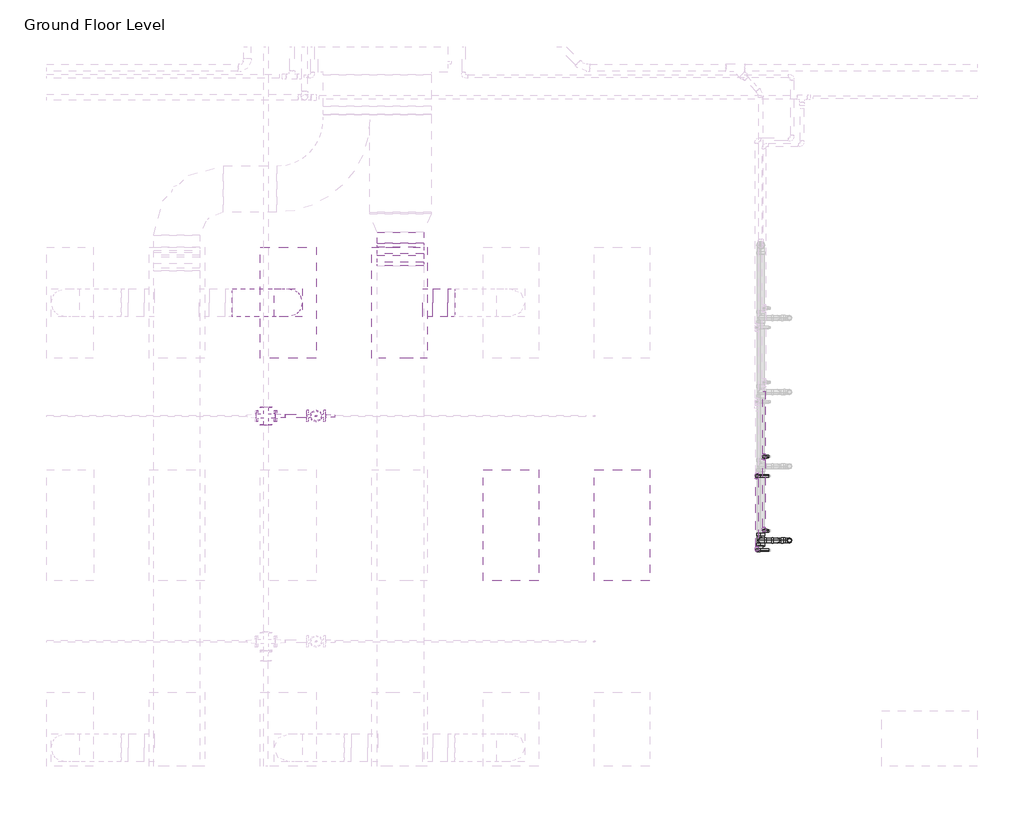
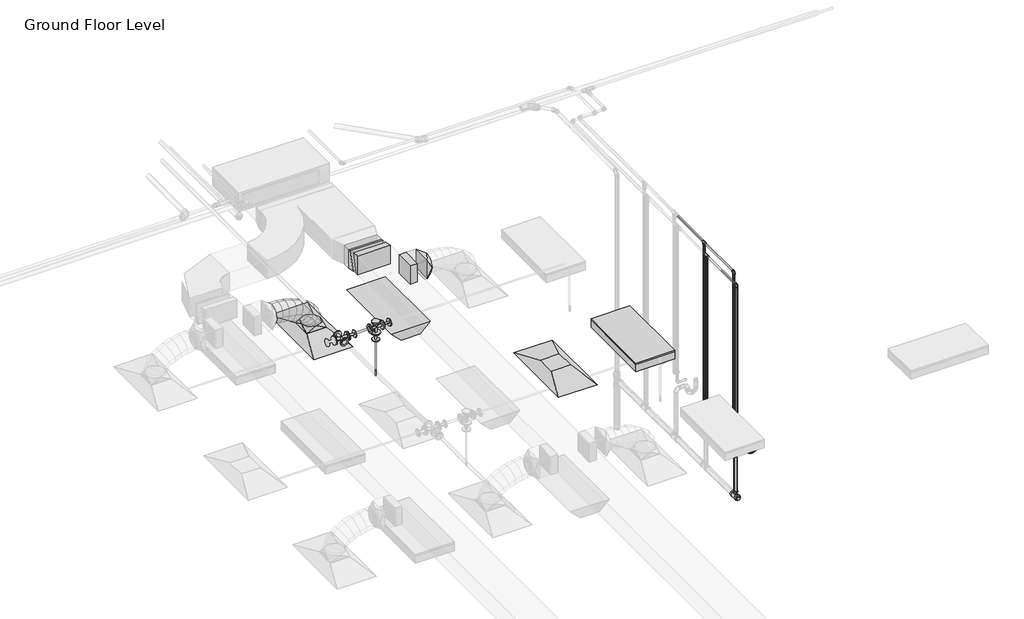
# One storey, part 48 of 66: 19 pipe fittings, 18 pipe segments, 5 duct fittings, 4 duct segments, 2 air terminals, 2 light fixtures, 1 fire suppression terminal.
"""IFC4 building model written with IfcOpenShell, lengths in millimetres."""

from ifc_helpers import new_model, si_unit, point, frame, frame_2d, origin, place, context, project, spatial, polyline, circle_curve, ellipse_curve, trimmed, segment, composite_curve, outline, extrude, transform, mapped, element, save
from ifc_brep_helpers import plane_surface, cylinder_surface, advanced_brep
from components import m_return_diffuser_1200x600_1200_x_600_face_300_x_300_d1983ef6, m_rectangular_elbow_radius_1_w_f78a0081, m_rectangular_takeoff_standard_cb0ccb98, m_rectangular_to_round_transition_angle_45_degree_641efff0, m_sprinkler_dry_pendent_hosted_15_mm_dry_pendent_9bda8e11, m_emergency_recessed_lighting_fixture_600x1200_277_5b10b25d, m_troffer_light_parabolic_rectangular1_0600x1200mm_4_lamp_86473d4a, m_bend_pvc_sch_40_dwv_standard_738aab8b, m_cross_flanged_cs_class_150_standard_fc817054, m_plug_pvc_sch_40_dwv_standard_af737ab4, m_reducer_flanged_cs_class_150_standard_ccf252ad, m_reducer_flanged_cs_class_150_standard_d42b2106, m_reducer_flanged_cs_class_150_standard_8338f9e4, m_tee_reducing_sanitary_pvc_sch_40_dwv_standard_21d2848c, m_tee_round_base_flanged_cs_class_150_standard_7e5987a1, standard_b266ab3f, standard_636910a4

model = new_model("IFC4")

# Units and contexts
model_context = context("Model", 3, world=origin())
ifc_project = project(units=[si_unit("LENGTHUNIT", "METRE", prefix="MILLI")], contexts=[model_context])

# Site, building, storey
site = spatial("IfcSite", under=ifc_project)
building = spatial("IfcBuilding", under=site)
storey = spatial("IfcBuildingStorey", under=building, Name="Ground Floor Level", Elevation=900.0)

# Air terminals
placement = place(None, origin())
m_return_diffuser_1200x600_1200_x_600_face_300_x_300_shape = m_return_diffuser_1200x600_1200_x_600_face_300_x_300_d1983ef6(model_context)
element("IfcAirTerminal", 1, ObjectType="M_Return Diffuser 1200x600 : 1200 x 600 Face 300 x 300 Connection", at=placement, inside=storey, context=model_context, shape_type="MappedRepresentation", body=[
    mapped(m_return_diffuser_1200x600_1200_x_600_face_300_x_300_shape, transform((-3337.2327605, 8835.2153534, 3650.0), x_axis=(0.0, 1.0, 0.0), y_axis=(-1.0, 0.0, 0.0), z_axis=(0.0, 0.0, 1.0))),
])
element("IfcAirTerminal", 2, ObjectType="M_Supply Diffuser 1200x600 : 1200 x 600 Face 300 x 300 Connection", at=placement, inside=storey, context=model_context, shape_type="MappedRepresentation", body=[
    mapped(m_return_diffuser_1200x600_1200_x_600_face_300_x_300_shape, transform((-5737.2327605, 11235.2153534, 3650.0), x_axis=(0.0, 1.0, 0.0), y_axis=(-1.0, 0.0, 0.0), z_axis=(0.0, 0.0, 1.0))),
])

# Duct fittings
m_rectangular_elbow_radius_1_w_shape = m_rectangular_elbow_radius_1_w_f78a0081(model_context)
element("IfcDuctFitting", 3, ObjectType="M_Rectangular Elbow - Radius : 1 W", at=placement, inside=storey, context=model_context, shape_type="MappedRepresentation", body=[
    mapped(m_rectangular_elbow_radius_1_w_shape, transform((-4528.6910789, 11671.1593756, 4149.9980527), x_axis=(0.0, 0.999999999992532, -3.864729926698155e-06), y_axis=(0.0, -3.864729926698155e-06, -0.999999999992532), z_axis=(-1.0, 0.0, 0.0))),
])
element("IfcDuctFitting", 4, ObjectType="M_Rectangular Elbow - Radius : 1 W", at=placement, inside=storey, context=model_context, shape_type="MappedRepresentation", body=[
    mapped(m_rectangular_elbow_radius_1_w_shape, transform((-4528.6910789, 11835.9032855, 4107.134916), x_axis=(0.0, -0.999999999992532, 3.864729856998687e-06), y_axis=(0.0, 3.864729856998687e-06, 0.999999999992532), z_axis=(-1.0, 0.0, 0.0))),
])
m_rectangular_takeoff_standard_shape = m_rectangular_takeoff_standard_cb0ccb98(model_context)
element("IfcDuctFitting", 5, ObjectType="M_Rectangular Takeoff : Standard", at=placement, inside=storey, context=model_context, shape_type="MappedRepresentation", body=[
    mapped(m_rectangular_takeoff_standard_shape, transform((-4278.6910789, 11235.2153534, 4150.0), x_axis=(1.0, 0.0, 0.0), y_axis=(0.0, -1.0, 0.0), z_axis=(0.0, 0.0, -1.0))),
])
m_rectangular_to_round_transition_angle_45_degree_shape = m_rectangular_to_round_transition_angle_45_degree_641efff0(model_context)
element("IfcDuctFitting", 6, ObjectType="M_Rectangular to Round Transition - Angle : 45 Degree", at=placement, inside=storey, context=model_context, shape_type="MappedRepresentation", body=[
    mapped(m_rectangular_to_round_transition_angle_45_degree_shape, transform((-5737.2327605, 11235.2153534, 3751.6), x_axis=(0.0, 0.0, 1.0), y_axis=(-1.0, 0.0, 0.0), z_axis=(0.0, -1.0, 0.0))),
])
element("IfcDuctFitting", 7, ObjectType="M_Rectangular to Round Transition - Angle : 45 Degree", at=placement, inside=storey, context=model_context, shape_type="MappedRepresentation", body=[
    mapped(m_rectangular_to_round_transition_angle_45_degree_shape, transform((-4018.6725245, 11235.2153534, 4150.0), x_axis=(1.0, 0.0, 0.0), y_axis=(0.0, 1.0, 0.0), z_axis=(0.0, 0.0, 1.0))),
])

# Duct segments
element("IfcDuctSegment", 8, ObjectType="Flex - Round", at=placement, inside=storey, context=model_context, shape_type="AdvancedBrep", body=[
    advanced_brep(
    [(-5587.2327605, 11235.2153534, 3826.6), (-5737.2327605, 11085.2153534, 3826.6), (-5887.2327605, 11235.2153534, 3826.6), (-5737.2327605, 11385.2153534, 3826.6), (-5587.2327605, 11235.2153534, 3882.1261126), (-5737.2327605, 11085.2153534, 3857.3049615), (-5887.2327605, 11235.2153534, 3832.4838104), (-5737.2327605, 11385.2153534, 3857.3049615), (-5618.4260847, 11235.2153534, 3973.7995287), (-5753.8941651, 11085.2153534, 3906.2708192), (-5889.3622454, 11235.2153534, 3838.7421096), (-5753.8941651, 11385.2153534, 3906.2708192), (-5688.1600922, 11235.2153534, 4076.4123668), (-5799.7721827, 11085.2153534, 3973.7798261), (-5911.3842733, 11235.2153534, 3871.1472855), (-5799.7721827, 11385.2153534, 3973.7798261), (-5786.0880408, 11235.2153534, 4155.7111802), (-5868.7075193, 11085.2153534, 4029.6013814), (-5951.3269979, 11235.2153534, 3903.4915826), (-5868.7075193, 11385.2153534, 4029.6013814), (-5894.832581, 11235.2153534, 4212.226815), (-5954.5408807, 11085.2153534, 4074.2098454), (-6014.2491805, 11235.2153534, 3936.1928758), (-5954.5408807, 11385.2153534, 4074.2098454), (-6009.1243732, 11235.2153534, 4252.311196), (-6051.1129728, 11085.2153534, 4108.0795788), (-6093.1015724, 11235.2153534, 3963.8479616), (-6051.1129728, 11385.2153534, 4108.0795788), (-6124.8554478, 11235.2153534, 4279.3189347), (-6152.2645014, 11085.2153534, 4131.684942), (-6179.6735551, 11235.2153534, 3984.0509494), (-6152.2645014, 11385.2153534, 4131.684942), (-6237.5146065, 11235.2153534, 4294.9501488), (-6251.8361725, 11085.2153534, 4145.5002956), (-6266.1577385, 11235.2153534, 3996.0504424), (-6251.8361725, 11385.2153534, 4145.5002956), (-6332.3362491, 11235.2153534, 4300.0), (-6336.3276445, 11085.2153534, 4150.0), (-6340.31904, 11235.2153534, 4000.0), (-6336.3276445, 11385.2153534, 4150.0), (-6343.6686918, 11235.2153534, 4300.0), (-6343.6686918, 11385.2153534, 4150.0), (-6343.6686918, 11235.2153534, 4000.0), (-6343.6686918, 11085.2153534, 4150.0)],
    [
        (0, 1, circle_curve(frame((-5737.2327605, 11235.2153534, 3826.6), z_axis=(0.0, 0.0, -1.0), x_axis=(1.0, 0.0, 0.0)), 150.0)),
        (1, 2, circle_curve(frame((-5737.2327605, 11235.2153534, 3826.6), z_axis=(0.0, 0.0, -1.0), x_axis=(1.0, 0.0, 0.0)), 150.0)),
        (2, 3, circle_curve(frame((-5737.2327605, 11235.2153534, 3826.6), z_axis=(0.0, 0.0, -1.0), x_axis=(1.0, 0.0, 0.0)), 150.0)),
        (3, 0, circle_curve(frame((-5737.2327605, 11235.2153534, 3826.6), z_axis=(0.0, 0.0, -1.0), x_axis=(1.0, 0.0, 0.0)), 150.0)),
        (0, 4),
        (4, 5, ellipse_curve(frame((-5737.2327605, 11235.2153534, 3857.3049615), z_axis=(0.1632543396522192, 0.0, -0.9865840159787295), x_axis=(-0.9865840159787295, 0.0, -0.16325433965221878)), 152.039763, 150.0)),
        (5, 1),
        (5, 6, ellipse_curve(frame((-5737.2327605, 11235.2153534, 3857.3049615), z_axis=(0.1632543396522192, 0.0, -0.9865840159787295), x_axis=(-0.9865840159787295, 0.0, -0.16325433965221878)), 152.039763, 150.0)),
        (6, 2),
        (6, 7, ellipse_curve(frame((-5737.2327605, 11235.2153534, 3857.3049615), z_axis=(0.1632543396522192, 0.0, -0.9865840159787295), x_axis=(-0.9865840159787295, 0.0, -0.16325433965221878)), 152.039763, 150.0)),
        (7, 3),
        (7, 4, ellipse_curve(frame((-5737.2327605, 11235.2153534, 3857.3049615), z_axis=(0.1632543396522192, 0.0, -0.9865840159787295), x_axis=(-0.9865840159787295, 0.0, -0.16325433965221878)), 152.039763, 150.0)),
        (4, 8),
        (8, 9, ellipse_curve(frame((-5753.8941651, 11235.2153534, 3906.2708192), z_axis=(0.44612805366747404, 0.0, -0.8949691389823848), x_axis=(-0.8949691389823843, 0.0, -0.44612805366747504)), 151.366203, 150.0)),
        (9, 5),
        (9, 10, ellipse_curve(frame((-5753.8941651, 11235.2153534, 3906.2708192), z_axis=(0.44612805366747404, 0.0, -0.8949691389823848), x_axis=(-0.8949691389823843, 0.0, -0.44612805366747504)), 151.366203, 150.0)),
        (10, 6),
        (10, 11, ellipse_curve(frame((-5753.8941651, 11235.2153534, 3906.2708192), z_axis=(0.44612805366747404, 0.0, -0.8949691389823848), x_axis=(-0.8949691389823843, 0.0, -0.44612805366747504)), 151.366203, 150.0)),
        (11, 7),
        (11, 8, ellipse_curve(frame((-5753.8941651, 11235.2153534, 3906.2708192), z_axis=(0.44612805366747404, 0.0, -0.8949691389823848), x_axis=(-0.8949691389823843, 0.0, -0.44612805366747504)), 151.366203, 150.0)),
        (8, 12),
        (12, 13, ellipse_curve(frame((-5799.7721827, 11235.2153534, 3973.7798261), z_axis=(0.6768758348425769, 0.0, -0.7360972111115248), x_axis=(-0.7360972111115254, 0.0, -0.6768758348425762)), 151.6268352, 150.0)),
        (13, 9),
        (13, 14, ellipse_curve(frame((-5799.7721827, 11235.2153534, 3973.7798261), z_axis=(0.6768758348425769, 0.0, -0.7360972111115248), x_axis=(-0.7360972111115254, 0.0, -0.6768758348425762)), 151.6268352, 150.0)),
        (14, 10),
        (14, 15, ellipse_curve(frame((-5799.7721827, 11235.2153534, 3973.7798261), z_axis=(0.6768758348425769, 0.0, -0.7360972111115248), x_axis=(-0.7360972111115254, 0.0, -0.6768758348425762)), 151.6268352, 150.0)),
        (15, 11),
        (15, 12, ellipse_curve(frame((-5799.7721827, 11235.2153534, 3973.7798261), z_axis=(0.6768758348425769, 0.0, -0.7360972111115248), x_axis=(-0.7360972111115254, 0.0, -0.6768758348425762)), 151.6268352, 150.0)),
        (12, 16),
        (16, 17, ellipse_curve(frame((-5868.7075193, 11235.2153534, 4029.6013814), z_axis=(0.8364738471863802, 0.0, -0.5480068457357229), x_axis=(-0.5480068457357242, 0.0, -0.8364738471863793)), 150.7635884, 150.0)),
        (17, 13),
        (17, 18, ellipse_curve(frame((-5868.7075193, 11235.2153534, 4029.6013814), z_axis=(0.8364738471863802, 0.0, -0.5480068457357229), x_axis=(-0.5480068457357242, 0.0, -0.8364738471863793)), 150.7635884, 150.0)),
        (18, 14),
        (18, 19, ellipse_curve(frame((-5868.7075193, 11235.2153534, 4029.6013814), z_axis=(0.8364738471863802, 0.0, -0.5480068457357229), x_axis=(-0.5480068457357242, 0.0, -0.8364738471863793)), 150.7635884, 150.0)),
        (19, 15),
        (19, 16, ellipse_curve(frame((-5868.7075193, 11235.2153534, 4029.6013814), z_axis=(0.8364738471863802, 0.0, -0.5480068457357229), x_axis=(-0.5480068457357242, 0.0, -0.8364738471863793)), 150.7635884, 150.0)),
        (16, 20),
        (20, 21, ellipse_curve(frame((-5954.5408807, 11235.2153534, 4074.2098454), z_axis=(0.9177957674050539, 0.0, -0.39705280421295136), x_axis=(-0.39705280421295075, 0.0, -0.9177957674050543)), 150.3787384, 150.0)),
        (21, 17),
        (21, 22, ellipse_curve(frame((-5954.5408807, 11235.2153534, 4074.2098454), z_axis=(0.9177957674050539, 0.0, -0.39705280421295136), x_axis=(-0.39705280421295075, 0.0, -0.9177957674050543)), 150.3787384, 150.0)),
        (22, 18),
        (22, 23, ellipse_curve(frame((-5954.5408807, 11235.2153534, 4074.2098454), z_axis=(0.9177957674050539, 0.0, -0.39705280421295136), x_axis=(-0.39705280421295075, 0.0, -0.9177957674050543)), 150.3787384, 150.0)),
        (23, 19),
        (23, 20, ellipse_curve(frame((-5954.5408807, 11235.2153534, 4074.2098454), z_axis=(0.9177957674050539, 0.0, -0.39705280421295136), x_axis=(-0.39705280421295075, 0.0, -0.9177957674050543)), 150.3787384, 150.0)),
        (20, 24),
        (24, 25, ellipse_curve(frame((-6051.1129728, 11235.2153534, 4108.0795788), z_axis=(0.9601411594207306, 0.0, -0.2795155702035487), x_axis=(-0.27951557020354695, 0.0, -0.9601411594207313)), 150.2191795, 150.0)),
        (25, 21),
        (25, 26, ellipse_curve(frame((-6051.1129728, 11235.2153534, 4108.0795788), z_axis=(0.9601411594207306, 0.0, -0.2795155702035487), x_axis=(-0.27951557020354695, 0.0, -0.9601411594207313)), 150.2191795, 150.0)),
        (26, 22),
        (26, 27, ellipse_curve(frame((-6051.1129728, 11235.2153534, 4108.0795788), z_axis=(0.9601411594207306, 0.0, -0.2795155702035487), x_axis=(-0.27951557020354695, 0.0, -0.9601411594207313)), 150.2191795, 150.0)),
        (27, 23),
        (27, 24, ellipse_curve(frame((-6051.1129728, 11235.2153534, 4108.0795788), z_axis=(0.9601411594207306, 0.0, -0.2795155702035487), x_axis=(-0.27951557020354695, 0.0, -0.9601411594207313)), 150.2191795, 150.0)),
        (24, 28),
        (28, 29, ellipse_curve(frame((-6152.2645014, 11235.2153534, 4131.684942), z_axis=(0.9831991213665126, 0.0, -0.1825362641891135), x_axis=(-0.1825362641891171, 0.0, -0.9831991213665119)), 150.1567581, 150.0)),
        (29, 25),
        (29, 30, ellipse_curve(frame((-6152.2645014, 11235.2153534, 4131.684942), z_axis=(0.9831991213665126, 0.0, -0.1825362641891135), x_axis=(-0.1825362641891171, 0.0, -0.9831991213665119)), 150.1567581, 150.0)),
        (30, 26),
        (30, 31, ellipse_curve(frame((-6152.2645014, 11235.2153534, 4131.684942), z_axis=(0.9831991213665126, 0.0, -0.1825362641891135), x_axis=(-0.1825362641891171, 0.0, -0.9831991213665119)), 150.1567581, 150.0)),
        (31, 27),
        (31, 28, ellipse_curve(frame((-6152.2645014, 11235.2153534, 4131.684942), z_axis=(0.9831991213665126, 0.0, -0.1825362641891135), x_axis=(-0.1825362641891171, 0.0, -0.9831991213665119)), 150.1567581, 150.0)),
        (28, 32),
        (32, 33, ellipse_curve(frame((-6251.8361725, 11235.2153534, 4145.5002956), z_axis=(0.9954398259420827, 0.0, -0.09539157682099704), x_axis=(-0.09539157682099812, 0.0, -0.9954398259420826)), 150.1344926, 150.0)),
        (33, 29),
        (33, 34, ellipse_curve(frame((-6251.8361725, 11235.2153534, 4145.5002956), z_axis=(0.9954398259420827, 0.0, -0.09539157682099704), x_axis=(-0.09539157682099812, 0.0, -0.9954398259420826)), 150.1344926, 150.0)),
        (34, 30),
        (34, 35, ellipse_curve(frame((-6251.8361725, 11235.2153534, 4145.5002956), z_axis=(0.9954398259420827, 0.0, -0.09539157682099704), x_axis=(-0.09539157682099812, 0.0, -0.9954398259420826)), 150.1344926, 150.0)),
        (35, 31),
        (35, 32, ellipse_curve(frame((-6251.8361725, 11235.2153534, 4145.5002956), z_axis=(0.9954398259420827, 0.0, -0.09539157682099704), x_axis=(-0.09539157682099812, 0.0, -0.9954398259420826)), 150.1344926, 150.0)),
        (32, 36),
        (36, 37, ellipse_curve(frame((-6336.3276445, 11235.2153534, 4150.0), z_axis=(0.9996461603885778, 0.0, -0.026599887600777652), x_axis=(-0.026599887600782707, 0.0, -0.9996461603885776)), 150.0530947, 150.0)),
        (37, 33),
        (37, 38, ellipse_curve(frame((-6336.3276445, 11235.2153534, 4150.0), z_axis=(0.9996461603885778, 0.0, -0.026599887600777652), x_axis=(-0.026599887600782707, 0.0, -0.9996461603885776)), 150.0530947, 150.0)),
        (38, 34),
        (38, 39, ellipse_curve(frame((-6336.3276445, 11235.2153534, 4150.0), z_axis=(0.9996461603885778, 0.0, -0.026599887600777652), x_axis=(-0.026599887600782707, 0.0, -0.9996461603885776)), 150.0530947, 150.0)),
        (39, 35),
        (39, 36, ellipse_curve(frame((-6336.3276445, 11235.2153534, 4150.0), z_axis=(0.9996461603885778, 0.0, -0.026599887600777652), x_axis=(-0.026599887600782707, 0.0, -0.9996461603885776)), 150.0530947, 150.0)),
        (40, 41, circle_curve(frame((-6343.6686918, 11235.2153534, 4150.0), z_axis=(-1.0, 0.0, 0.0), x_axis=(0.0, 0.0, 1.0)), 150.0)),
        (41, 42, circle_curve(frame((-6343.6686918, 11235.2153534, 4150.0), z_axis=(-1.0, 0.0, 0.0), x_axis=(0.0, 0.0, 1.0)), 150.0)),
        (42, 43, circle_curve(frame((-6343.6686918, 11235.2153534, 4150.0), z_axis=(-1.0, 0.0, 0.0), x_axis=(0.0, 0.0, 1.0)), 150.0)),
        (43, 40, circle_curve(frame((-6343.6686918, 11235.2153534, 4150.0), z_axis=(-1.0, 0.0, 0.0), x_axis=(0.0, 0.0, 1.0)), 150.0)),
        (36, 40),
        (43, 37),
        (42, 38),
        (41, 39),
    ],
    [
        plane_surface(frame((-5737.2327605, 11085.2153534, 3826.6), z_axis=(0.0, 0.0, -1.0), x_axis=(1.0, 0.0, 0.0))),
        cylinder_surface(frame((-5737.2327605, 11235.2153534, 3826.6), z_axis=(0.0, 0.0, -1.0), x_axis=(1.0, 0.0, 0.0)), 150.0),
        cylinder_surface(frame((-5737.2327605, 11235.2153534, 3857.3049615), z_axis=(0.32212824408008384, 0.0, -0.9466960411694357), x_axis=(0.9466960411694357, 0.0, 0.32212824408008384)), 150.0),
        cylinder_surface(frame((-5753.8941651, 11235.2153534, 3906.2708192), z_axis=(0.5620745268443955, 0.0, -0.8270865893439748), x_axis=(0.8270865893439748, 0.0, 0.5620745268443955)), 150.0),
        cylinder_surface(frame((-5799.7721827, 11235.2153534, 3973.7798261), z_axis=(0.777152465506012, 0.0, -0.6293123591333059), x_axis=(0.6293123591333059, 0.0, 0.777152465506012)), 150.0),
        cylinder_surface(frame((-5868.7075193, 11235.2153534, 4029.6013814), z_axis=(0.887322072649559, 0.0, -0.4611502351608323), x_axis=(0.4611502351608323, 0.0, 0.887322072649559)), 150.0),
        cylinder_surface(frame((-5954.5408807, 11235.2153534, 4074.2098454), z_axis=(0.9436464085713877, 0.0, -0.3309553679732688), x_axis=(0.3309553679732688, 0.0, 0.9436464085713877)), 150.0),
        cylinder_surface(frame((-6051.1129728, 11235.2153534, 4108.0795788), z_axis=(0.9738340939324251, 0.0, -0.22726010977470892), x_axis=(0.22726010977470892, 0.0, 0.9738340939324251)), 150.0),
        cylinder_surface(frame((-6152.2645014, 11235.2153534, 4131.684942), z_axis=(0.9905113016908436, 0.0, -0.137431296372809), x_axis=(0.137431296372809, 0.0, 0.9905113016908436)), 150.0),
        cylinder_surface(frame((-6251.8361725, 11235.2153534, 4145.5002956), z_axis=(0.998584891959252, 0.0, -0.05318095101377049), x_axis=(0.05318095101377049, 0.0, 0.998584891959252)), 150.0),
        plane_surface(frame((-6343.6686918, 11235.2153534, 4000.0), z_axis=(-1.0, 0.0, 0.0), x_axis=(0.0, -1.0, 0.0))),
        cylinder_surface(frame((-6336.3276445, 11235.2153534, 4150.0), z_axis=(1.0, 0.0, 0.0), x_axis=(0.0, 0.0, 1.0)), 150.0),
    ],
    [
        (0, [[1, 2, 3, 4]]),
        (1, [[-1, 5, 6, 7]]),
        (1, [[-2, -7, 8, 9]]),
        (1, [[-3, -9, 10, 11]]),
        (1, [[-4, -11, 12, -5]]),
        (2, [[-6, 13, 14, 15]]),
        (2, [[-8, -15, 16, 17]]),
        (2, [[-10, -17, 18, 19]]),
        (2, [[-12, -19, 20, -13]]),
        (3, [[-14, 21, 22, 23]]),
        (3, [[-16, -23, 24, 25]]),
        (3, [[-18, -25, 26, 27]]),
        (3, [[-20, -27, 28, -21]]),
        (4, [[-22, 29, 30, 31]]),
        (4, [[-24, -31, 32, 33]]),
        (4, [[-26, -33, 34, 35]]),
        (4, [[-28, -35, 36, -29]]),
        (5, [[-30, 37, 38, 39]]),
        (5, [[-32, -39, 40, 41]]),
        (5, [[-34, -41, 42, 43]]),
        (5, [[-36, -43, 44, -37]]),
        (6, [[-38, 45, 46, 47]]),
        (6, [[-40, -47, 48, 49]]),
        (6, [[-42, -49, 50, 51]]),
        (6, [[-44, -51, 52, -45]]),
        (7, [[-46, 53, 54, 55]]),
        (7, [[-48, -55, 56, 57]]),
        (7, [[-50, -57, 58, 59]]),
        (7, [[-52, -59, 60, -53]]),
        (8, [[-54, 61, 62, 63]]),
        (8, [[-56, -63, 64, 65]]),
        (8, [[-58, -65, 66, 67]]),
        (8, [[-60, -67, 68, -61]]),
        (9, [[-62, 69, 70, 71]]),
        (9, [[-64, -71, 72, 73]]),
        (9, [[-66, -73, 74, 75]]),
        (9, [[-68, -75, 76, -69]]),
        (10, [[77, 78, 79, 80]]),
        (11, [[-70, 81, -80, 82]]),
        (11, [[-72, -82, -79, 83]]),
        (11, [[-74, -83, -78, 84]]),
        (11, [[-76, -84, -77, -81]]),
    ],
),
])
element("IfcDuctSegment", 9, ObjectType="Radius Elbows / Taps", at=placement, inside=storey, context=model_context, shape_type="SweptSolid", body=[
    extrude(outline(polyline([(-4177.0910789, 11085.2153534), (-4177.0910789, 11385.2153534), (-4018.6725245, 11385.2153534), (-4018.6725245, 11085.2153534), (-4177.0910789, 11085.2153534)])), frame((0.0, 0.0, 4000.0), z_axis=(0.0, 0.0, 1.0), x_axis=(1.0, 0.0, 0.0)), (0.0, 0.0, 1.0), 300.0),
])
element("IfcDuctSegment", 10, ObjectType="Radius Elbows / Taps", at=placement, inside=storey, context=model_context, shape_type="SweptSolid", body=[
    extrude(outline(polyline([(-4778.6910789, 11996.8633064), (-4278.6910789, 11996.8633064), (-4278.6910789, 11874.2907355), (-4778.6910789, 11874.2907355), (-4778.6910789, 11996.8633064)])), frame((0.0, 0.0, 3957.1342939), z_axis=(0.0, 0.0, 1.0), x_axis=(1.0, 0.0, 0.0)), (0.0, 0.0, 1.0), 300.0),
])
element("IfcDuctSegment", 11, ObjectType="Radius Elbows / Taps", at=placement, inside=storey, context=model_context, shape_type="SweptSolid", body=[
    extrude(outline(polyline([(0.0, -500.0), (0.0, 0.0), (93.4537824, 0.0), (93.4537824, -500.0), (0.0, -500.0)])), frame((-4778.6910789, 11670.5403736, 3995.1651971), z_axis=(0.0, 0.25179738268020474, 0.9677799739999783), x_axis=(0.0, 0.9677799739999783, -0.25179738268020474)), (0.0, 0.0, 1.0), 300.0),
])

# Fire suppression terminal
m_sprinkler_dry_pendent_hosted_15_mm_dry_pendent_shape = m_sprinkler_dry_pendent_hosted_15_mm_dry_pendent_9bda8e11(model_context)
element("IfcFireSuppressionTerminal", 12, ObjectType="M_Sprinkler - Dry - Pendent - Hosted : 15 mm Dry Pendent", at=placement, inside=storey, context=model_context, shape_type="MappedRepresentation", body=[
    mapped(m_sprinkler_dry_pendent_hosted_15_mm_dry_pendent_shape, transform((-5437.2327605, 10013.008259, 3650.0), x_axis=(1.0, 0.0, 0.0), y_axis=(0.0, -1.0, 0.0), z_axis=(0.0, 0.0, -1.0))),
])

# Light fixtures
m_emergency_recessed_lighting_fixture_600x1200_277_shape = m_emergency_recessed_lighting_fixture_600x1200_277_5b10b25d(model_context)
element("IfcLightFixture", 13, ObjectType="M_Emergency Recessed Lighting Fixture : 600x1200 - 277", at=placement, inside=storey, context=model_context, shape_type="MappedRepresentation", body=[
    mapped(m_emergency_recessed_lighting_fixture_600x1200_277_shape, transform((-4837.2327605, 10635.2153534, 3650.0), x_axis=(0.0, 1.0, 0.0), y_axis=(-1.0, 0.0, 0.0), z_axis=(0.0, 0.0, 1.0))),
])
m_troffer_light_parabolic_rectangular1_0600x1200mm_4_lamp_shape = m_troffer_light_parabolic_rectangular1_0600x1200mm_4_lamp_86473d4a(model_context)
element("IfcLightFixture", 14, ObjectType="M_Troffer Light - Parabolic Rectangular1 : 0600x1200mm(4 Lamp) - 277V 2", at=placement, inside=storey, context=model_context, shape_type="MappedRepresentation", body=[
    mapped(m_troffer_light_parabolic_rectangular1_0600x1200mm_4_lamp_shape, transform((-2196.6986926, 8853.918855, 3650.0), x_axis=(0.0, 1.0, 0.0), y_axis=(-1.0, 0.0, 0.0), z_axis=(0.0, 0.0, 1.0))),
])

# Pipe fittings
m_bend_pvc_sch_40_dwv_standard_shape = m_bend_pvc_sch_40_dwv_standard_738aab8b(model_context)
element("IfcPipeFitting", 15, ObjectType="M_Bend - PVC - Sch 40 - DWV : Standard", at=placement, inside=storey, context=model_context, shape_type="MappedRepresentation", body=[
    mapped(m_bend_pvc_sch_40_dwv_standard_shape, transform((-463.6645494, 8671.1979139, 1370.0), x_axis=(-1.0, 0.0, 0.0), y_axis=(0.0, 0.0, 1.0), z_axis=(0.0, 1.0, 0.0))),
])
element("IfcPipeFitting", 16, ObjectType="M_Bend - PVC - Sch 40 - DWV : Standard", at=placement, inside=storey, context=model_context, shape_type="MappedRepresentation", body=[
    mapped(m_bend_pvc_sch_40_dwv_standard_shape, transform((-463.6645494, 8671.1979139, 1510.0), x_axis=(0.0, 0.0, 1.0), y_axis=(-1.0, 0.0, 0.0), z_axis=(0.0, -1.0, 0.0))),
])
element("IfcPipeFitting", 17, ObjectType="M_Bend - PVC - Sch 40 - DWV : Standard", at=placement, inside=storey, context=model_context, shape_type="MappedRepresentation", body=[
    mapped(m_bend_pvc_sch_40_dwv_standard_shape, transform((-333.6645494, 8671.1979139, 1370.0), x_axis=(1.0, 0.0, 0.0), y_axis=(0.0, 0.0, 1.0), z_axis=(0.0, -1.0, 0.0))),
])
element("IfcPipeFitting", 18, ObjectType="M_Bend - PVC - Sch 40 - DWV : Standard", at=placement, inside=storey, context=model_context, shape_type="MappedRepresentation", body=[
    mapped(m_bend_pvc_sch_40_dwv_standard_shape, transform((-642.2301761, 8671.1979139, 1510.0), x_axis=(-1.0, 0.0, 0.0), y_axis=(0.0, 0.0, -1.0), z_axis=(0.0, -1.0, 0.0))),
])
m_cross_flanged_cs_class_150_standard_shape = m_cross_flanged_cs_class_150_standard_fc817054(model_context)
element("IfcPipeFitting", 19, ObjectType="M_Cross - Flanged - CS - Class 150 : Standard", at=placement, inside=storey, context=model_context, shape_type="MappedRepresentation", body=[
    mapped(m_cross_flanged_cs_class_150_standard_shape, transform((-5978.130502, 10013.008259, 4360.0), x_axis=(0.0, 1.0, 0.0), y_axis=(1.0, 0.0, 0.0), z_axis=(0.0, 0.0, -1.0))),
])
m_plug_pvc_sch_40_dwv_standard_shape = m_plug_pvc_sch_40_dwv_standard_af737ab4(model_context)
element("IfcPipeFitting", 20, ObjectType="M_Plug - PVC - Sch 40 - DWV : Standard", at=placement, inside=storey, context=model_context, shape_type="MappedRepresentation", body=[
    mapped(m_plug_pvc_sch_40_dwv_standard_shape, transform((-642.2301761, 8611.7151447, 727.6937137), x_axis=(0.0, -0.9999500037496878, 0.009999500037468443), y_axis=(0.0, -0.009999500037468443, -0.9999500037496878), z_axis=(1.0, 0.0, 0.0))),
])
m_reducer_flanged_cs_class_150_standard_shape = m_reducer_flanged_cs_class_150_standard_ccf252ad(model_context)
element("IfcPipeFitting", 21, ObjectType="M_Reducer - Flanged - CS - Class 150 : Standard", at=placement, inside=storey, context=model_context, shape_type="MappedRepresentation", body=[
    mapped(m_reducer_flanged_cs_class_150_standard_shape, transform((-5437.2327605, 10013.008259, 4259.2914063), x_axis=(0.0, 0.0, -1.0), y_axis=(-1.0, 0.0, 0.0), z_axis=(0.0, 1.0, 0.0))),
])
m_reducer_flanged_cs_class_150_standard_2_shape = m_reducer_flanged_cs_class_150_standard_d42b2106(model_context)
element("IfcPipeFitting", 22, ObjectType="M_Reducer - Flanged - CS - Class 150 : Standard", at=placement, inside=storey, context=model_context, shape_type="MappedRepresentation", body=[
    mapped(m_reducer_flanged_cs_class_150_standard_2_shape, transform((-5336.5241668, 10013.008259, 4360.0), x_axis=(1.0, 0.0, 0.0), y_axis=(0.0, 1.0, 0.0), z_axis=(0.0, 0.0, 1.0))),
])
m_reducer_flanged_cs_class_150_standard_3_shape = m_reducer_flanged_cs_class_150_standard_8338f9e4(model_context)
element("IfcPipeFitting", 23, ObjectType="M_Reducer - Flanged - CS - Class 150 : Standard", at=placement, inside=storey, context=model_context, shape_type="MappedRepresentation", body=[
    mapped(m_reducer_flanged_cs_class_150_standard_3_shape, transform((-5876.130502, 10013.008259, 4360.0), x_axis=(1.0, 0.0, 0.0), y_axis=(0.0, 1.0, 0.0), z_axis=(0.0, 0.0, 1.0))),
])
m_tee_reducing_sanitary_pvc_sch_40_dwv_standard_shape = m_tee_reducing_sanitary_pvc_sch_40_dwv_standard_21d2848c(model_context)
element("IfcPipeFitting", 24, ObjectType="M_Tee Reducing Sanitary - PVC - Sch 40 - DWV : Standard", at=placement, inside=storey, context=model_context, shape_type="MappedRepresentation", body=[
    mapped(m_tee_reducing_sanitary_pvc_sch_40_dwv_standard_shape, transform((-642.2301761, 8671.1979139, 727.098886), x_axis=(0.0, -0.9999500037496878, 0.009999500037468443), y_axis=(0.0, -0.009999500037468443, -0.9999500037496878), z_axis=(1.0, 0.0, 0.0))),
])
m_tee_round_base_flanged_cs_class_150_standard_shape = m_tee_round_base_flanged_cs_class_150_standard_7e5987a1(model_context)
element("IfcPipeFitting", 25, ObjectType="M_Tee Round Base - Flanged - CS - Class 150 : Standard", at=placement, inside=storey, context=model_context, shape_type="MappedRepresentation", body=[
    mapped(m_tee_round_base_flanged_cs_class_150_standard_shape, transform((-5437.2327605, 10013.008259, 4360.0), x_axis=(1.0, 0.0, 0.0), y_axis=(0.0, 0.0, 1.0), z_axis=(0.0, -1.0, 0.0))),
])
standard_shape = standard_b266ab3f(model_context)
element("IfcPipeFitting", 26, ObjectType="M_Elbow - CPVC - Sch 40 : Standard", at=placement, inside=storey, context=model_context, shape_type="MappedRepresentation", body=[
    mapped(standard_shape, transform((-607.2327605, 9575.5128345, 1690.0), x_axis=(0.0, 0.0, -1.0), y_axis=(1.0, 0.0, 0.0), z_axis=(0.0, -1.0, 0.0))),
])
element("IfcPipeFitting", 27, ObjectType="M_Elbow - CPVC - Sch 40 : Standard", at=placement, inside=storey, context=model_context, shape_type="MappedRepresentation", body=[
    mapped(standard_shape, transform((-607.2327605, 8775.5128345, 1690.0), x_axis=(0.0, 0.0, -1.0), y_axis=(1.0, 0.0, 0.0), z_axis=(0.0, -1.0, 0.0))),
])
element("IfcPipeFitting", 28, ObjectType="M_Elbow - CPVC - Sch 40 : Standard", at=placement, inside=storey, context=model_context, shape_type="MappedRepresentation", body=[
    mapped(standard_shape, transform((-607.2327605, 8775.5128345, 4315.0), x_axis=(0.0, -1.0, 0.0), y_axis=(0.0, 0.0, -1.0), z_axis=(1.0, 0.0, 0.0))),
])
element("IfcPipeFitting", 29, ObjectType="M_Elbow - CPVC - Sch 40 : Standard", at=placement, inside=storey, context=model_context, shape_type="MappedRepresentation", body=[
    mapped(standard_shape, transform((-684.0671674, 8566.8829933, 1690.0), x_axis=(-1.0, 0.0, 0.0), y_axis=(0.0, 0.0, 1.0), z_axis=(0.0, 1.0, 0.0))),
])
element("IfcPipeFitting", 30, ObjectType="M_Elbow - CPVC - Sch 40 : Standard", at=placement, inside=storey, context=model_context, shape_type="MappedRepresentation", body=[
    mapped(standard_shape, transform((-684.0671674, 8566.8829933, 4250.0), x_axis=(0.0, 0.0, 1.0), y_axis=(0.0, 1.0, 0.0), z_axis=(-1.0, 0.0, 0.0))),
])
element("IfcPipeFitting", 31, ObjectType="M_Elbow - CPVC - Sch 40 : Standard", at=placement, inside=storey, context=model_context, shape_type="MappedRepresentation", body=[
    mapped(standard_shape, transform((-684.0671674, 9366.8829933, 1690.0), x_axis=(-1.0, 0.0, 0.0), y_axis=(0.0, 0.0, 1.0), z_axis=(0.0, 1.0, 0.0))),
])
standard_2_shape = standard_636910a4(model_context)
element("IfcPipeFitting", 32, ObjectType="M_Tee - CPVC - Sch 40 : Standard", at=placement, inside=storey, context=model_context, shape_type="MappedRepresentation", body=[
    mapped(standard_2_shape, transform((-607.2327605, 9575.5128345, 4315.0), x_axis=(0.0, 1.0, 0.0), y_axis=(0.0, 0.0, 1.0), z_axis=(1.0, 0.0, 0.0))),
])
element("IfcPipeFitting", 33, ObjectType="M_Tee - CPVC - Sch 40 : Standard", at=placement, inside=storey, context=model_context, shape_type="MappedRepresentation", body=[
    mapped(standard_2_shape, transform((-684.0671674, 9366.8829933, 4250.0), x_axis=(0.0, -1.0, 0.0), y_axis=(0.0, 0.0, 1.0), z_axis=(-1.0, 0.0, 0.0))),
])

# Pipe segments
element("IfcPipeSegment", 34, ObjectType="CPVC", at=placement, inside=storey, context=model_context, shape_type="SweptSolid", body=[
    extrude(outline(composite_curve([segment(trimmed(circle_curve(frame_2d((9575.5128345, 1690.0)), 13.335), [point((9562.1778345, 1690.0))], [point((9575.5128345, 1703.335))], False, "CARTESIAN"), True, "CONTINUOUS"), segment(trimmed(circle_curve(frame_2d((9575.5128345, 1690.0)), 13.335), [point((9575.5128345, 1703.335))], [point((9588.8478345, 1690.0))], False, "CARTESIAN"), True, "CONTINUOUS"), segment(trimmed(circle_curve(frame_2d((9575.5128345, 1690.0)), 13.335), [point((9588.8478345, 1690.0))], [point((9575.5128345, 1676.665))], False, "CARTESIAN"), True, "CONTINUOUS"), segment(trimmed(circle_curve(frame_2d((9575.5128345, 1690.0)), 13.335), [point((9575.5128345, 1676.665))], [point((9562.1778345, 1690.0))], False, "CARTESIAN"), True, "CONTINUOUS")], self_intersect=False)), frame((-571.9077105, 0.0, 0.0), z_axis=(1.0, 0.0, 0.0), x_axis=(0.0, 1.0, 0.0)), (0.0, 0.0, 1.0), 14.67495),
])
element("IfcPipeSegment", 35, ObjectType="CPVC", at=placement, inside=storey, context=model_context, shape_type="SweptSolid", body=[
    extrude(outline(composite_curve([segment(trimmed(circle_curve(frame_2d((-607.2327605, 9575.5128345)), 13.335), [point((-593.8977605, 9575.5128345))], [point((-607.2327605, 9562.1778345))], False, "CARTESIAN"), True, "CONTINUOUS"), segment(trimmed(circle_curve(frame_2d((-607.2327605, 9575.5128345)), 13.335), [point((-607.2327605, 9562.1778345))], [point((-620.5677605, 9575.5128345))], False, "CARTESIAN"), True, "CONTINUOUS"), segment(trimmed(circle_curve(frame_2d((-607.2327605, 9575.5128345)), 13.335), [point((-620.5677605, 9575.5128345))], [point((-607.2327605, 9588.8478345))], False, "CARTESIAN"), True, "CONTINUOUS"), segment(trimmed(circle_curve(frame_2d((-607.2327605, 9575.5128345)), 13.335), [point((-607.2327605, 9588.8478345))], [point((-593.8977605, 9575.5128345))], False, "CARTESIAN"), True, "CONTINUOUS")], self_intersect=False)), frame((0.0, 0.0, 1725.32505), z_axis=(0.0, 0.0, 1.0), x_axis=(1.0, 0.0, 0.0)), (0.0, 0.0, 1.0), 2557.13755),
])
element("IfcPipeSegment", 36, ObjectType="CPVC", at=placement, inside=storey, context=model_context, shape_type="SweptSolid", body=[
    extrude(outline(composite_curve([segment(trimmed(circle_curve(frame_2d((4315.0, -607.2327605)), 13.335), [point((4315.0, -620.5677605))], [point((4301.665, -607.2327605))], False, "CARTESIAN"), True, "CONTINUOUS"), segment(trimmed(circle_curve(frame_2d((4315.0, -607.2327605)), 13.335), [point((4301.665, -607.2327605))], [point((4315.0, -593.8977605))], False, "CARTESIAN"), True, "CONTINUOUS"), segment(trimmed(circle_curve(frame_2d((4315.0, -607.2327605)), 13.335), [point((4315.0, -593.8977605))], [point((4328.335, -607.2327605))], False, "CARTESIAN"), True, "CONTINUOUS"), segment(trimmed(circle_curve(frame_2d((4315.0, -607.2327605)), 13.335), [point((4328.335, -607.2327605))], [point((4315.0, -620.5677605))], False, "CARTESIAN"), True, "CONTINUOUS")], self_intersect=False)), frame((0.0, 9608.0502345, 0.0), z_axis=(0.0, 1.0, 0.0), x_axis=(0.0, 0.0, 1.0)), (0.0, 0.0, 1.0), 670.6124),
])
element("IfcPipeSegment", 37, ObjectType="CPVC", at=placement, inside=storey, context=model_context, shape_type="SweptSolid", body=[
    extrude(outline(composite_curve([segment(trimmed(circle_curve(frame_2d((8775.5128345, 1690.0)), 13.335), [point((8762.1778345, 1690.0))], [point((8775.5128345, 1703.335))], False, "CARTESIAN"), True, "CONTINUOUS"), segment(trimmed(circle_curve(frame_2d((8775.5128345, 1690.0)), 13.335), [point((8775.5128345, 1703.335))], [point((8788.8478345, 1690.0))], False, "CARTESIAN"), True, "CONTINUOUS"), segment(trimmed(circle_curve(frame_2d((8775.5128345, 1690.0)), 13.335), [point((8788.8478345, 1690.0))], [point((8775.5128345, 1676.665))], False, "CARTESIAN"), True, "CONTINUOUS"), segment(trimmed(circle_curve(frame_2d((8775.5128345, 1690.0)), 13.335), [point((8775.5128345, 1676.665))], [point((8762.1778345, 1690.0))], False, "CARTESIAN"), True, "CONTINUOUS")], self_intersect=False)), frame((-571.9077105, 0.0, 0.0), z_axis=(1.0, 0.0, 0.0), x_axis=(0.0, 1.0, 0.0)), (0.0, 0.0, 1.0), 14.67495),
])
element("IfcPipeSegment", 38, ObjectType="CPVC", at=placement, inside=storey, context=model_context, shape_type="SweptSolid", body=[
    extrude(outline(composite_curve([segment(trimmed(circle_curve(frame_2d((-607.2327605, 8775.5128345)), 13.335), [point((-593.8977605, 8775.5128345))], [point((-607.2327605, 8762.1778345))], False, "CARTESIAN"), True, "CONTINUOUS"), segment(trimmed(circle_curve(frame_2d((-607.2327605, 8775.5128345)), 13.335), [point((-607.2327605, 8762.1778345))], [point((-620.5677605, 8775.5128345))], False, "CARTESIAN"), True, "CONTINUOUS"), segment(trimmed(circle_curve(frame_2d((-607.2327605, 8775.5128345)), 13.335), [point((-620.5677605, 8775.5128345))], [point((-607.2327605, 8788.8478345))], False, "CARTESIAN"), True, "CONTINUOUS"), segment(trimmed(circle_curve(frame_2d((-607.2327605, 8775.5128345)), 13.335), [point((-607.2327605, 8788.8478345))], [point((-593.8977605, 8775.5128345))], False, "CARTESIAN"), True, "CONTINUOUS")], self_intersect=False)), frame((0.0, 0.0, 1725.32505), z_axis=(0.0, 0.0, 1.0), x_axis=(1.0, 0.0, 0.0)), (0.0, 0.0, 1.0), 2554.3499),
])
element("IfcPipeSegment", 39, ObjectType="CPVC", at=placement, inside=storey, context=model_context, shape_type="SweptSolid", body=[
    extrude(outline(composite_curve([segment(trimmed(circle_curve(frame_2d((4315.0, -607.2327605)), 13.335), [point((4315.0, -620.5677605))], [point((4301.665, -607.2327605))], False, "CARTESIAN"), True, "CONTINUOUS"), segment(trimmed(circle_curve(frame_2d((4315.0, -607.2327605)), 13.335), [point((4301.665, -607.2327605))], [point((4315.0, -593.8977605))], False, "CARTESIAN"), True, "CONTINUOUS"), segment(trimmed(circle_curve(frame_2d((4315.0, -607.2327605)), 13.335), [point((4315.0, -593.8977605))], [point((4328.335, -607.2327605))], False, "CARTESIAN"), True, "CONTINUOUS"), segment(trimmed(circle_curve(frame_2d((4315.0, -607.2327605)), 13.335), [point((4328.335, -607.2327605))], [point((4315.0, -620.5677605))], False, "CARTESIAN"), True, "CONTINUOUS")], self_intersect=False)), frame((0.0, 8810.8378845, 0.0), z_axis=(0.0, 1.0, 0.0), x_axis=(0.0, 0.0, 1.0)), (0.0, 0.0, 1.0), 732.13755),
])
element("IfcPipeSegment", 40, ObjectType="CPVC", at=placement, inside=storey, context=model_context, shape_type="SweptSolid", body=[
    extrude(outline(composite_curve([segment(trimmed(circle_curve(frame_2d((8566.8829933, 1690.0)), 13.335), [point((8580.2179933, 1690.0))], [point((8566.8829933, 1676.665))], False, "CARTESIAN"), True, "CONTINUOUS"), segment(trimmed(circle_curve(frame_2d((8566.8829933, 1690.0)), 13.335), [point((8566.8829933, 1676.665))], [point((8553.5479933, 1690.0))], False, "CARTESIAN"), True, "CONTINUOUS"), segment(trimmed(circle_curve(frame_2d((8566.8829933, 1690.0)), 13.335), [point((8553.5479933, 1690.0))], [point((8566.8829933, 1703.335))], False, "CARTESIAN"), True, "CONTINUOUS"), segment(trimmed(circle_curve(frame_2d((8566.8829933, 1690.0)), 13.335), [point((8566.8829933, 1703.335))], [point((8580.2179933, 1690.0))], False, "CARTESIAN"), True, "CONTINUOUS")], self_intersect=False)), frame((-648.7421174, 0.0, 0.0), z_axis=(1.0, 0.0, 0.0), x_axis=(0.0, 1.0, 0.0)), (0.0, 0.0, 1.0), 91.5093569),
])
element("IfcPipeSegment", 41, ObjectType="CPVC", at=placement, inside=storey, context=model_context, shape_type="SweptSolid", body=[
    extrude(outline(composite_curve([segment(trimmed(circle_curve(frame_2d((-684.0671674, 8566.8829933)), 13.335), [point((-697.4021674, 8566.8829933))], [point((-684.0671674, 8580.2179933))], False, "CARTESIAN"), True, "CONTINUOUS"), segment(trimmed(circle_curve(frame_2d((-684.0671674, 8566.8829933)), 13.335), [point((-684.0671674, 8580.2179933))], [point((-670.7321674, 8566.8829933))], False, "CARTESIAN"), True, "CONTINUOUS"), segment(trimmed(circle_curve(frame_2d((-684.0671674, 8566.8829933)), 13.335), [point((-670.7321674, 8566.8829933))], [point((-684.0671674, 8553.5479933))], False, "CARTESIAN"), True, "CONTINUOUS"), segment(trimmed(circle_curve(frame_2d((-684.0671674, 8566.8829933)), 13.335), [point((-684.0671674, 8553.5479933))], [point((-697.4021674, 8566.8829933))], False, "CARTESIAN"), True, "CONTINUOUS")], self_intersect=False)), frame((0.0, 0.0, 1725.32505), z_axis=(0.0, 0.0, 1.0), x_axis=(1.0, 0.0, 0.0)), (0.0, 0.0, 1.0), 2489.3499),
])
element("IfcPipeSegment", 42, ObjectType="CPVC", at=placement, inside=storey, context=model_context, shape_type="SweptSolid", body=[
    extrude(outline(composite_curve([segment(trimmed(circle_curve(frame_2d((9366.8829933, 1690.0)), 13.335), [point((9380.2179933, 1690.0))], [point((9366.8829933, 1676.665))], False, "CARTESIAN"), True, "CONTINUOUS"), segment(trimmed(circle_curve(frame_2d((9366.8829933, 1690.0)), 13.335), [point((9366.8829933, 1676.665))], [point((9353.5479933, 1690.0))], False, "CARTESIAN"), True, "CONTINUOUS"), segment(trimmed(circle_curve(frame_2d((9366.8829933, 1690.0)), 13.335), [point((9353.5479933, 1690.0))], [point((9366.8829933, 1703.335))], False, "CARTESIAN"), True, "CONTINUOUS"), segment(trimmed(circle_curve(frame_2d((9366.8829933, 1690.0)), 13.335), [point((9366.8829933, 1703.335))], [point((9380.2179933, 1690.0))], False, "CARTESIAN"), True, "CONTINUOUS")], self_intersect=False)), frame((-648.7421174, 0.0, 0.0), z_axis=(1.0, 0.0, 0.0), x_axis=(0.0, 1.0, 0.0)), (0.0, 0.0, 1.0), 91.5093569),
])
element("IfcPipeSegment", 43, ObjectType="CPVC", at=placement, inside=storey, context=model_context, shape_type="SweptSolid", body=[
    extrude(outline(composite_curve([segment(trimmed(circle_curve(frame_2d((-684.0671674, 9366.8829933)), 13.335), [point((-697.4021674, 9366.8829933))], [point((-684.0671674, 9380.2179933))], False, "CARTESIAN"), True, "CONTINUOUS"), segment(trimmed(circle_curve(frame_2d((-684.0671674, 9366.8829933)), 13.335), [point((-684.0671674, 9380.2179933))], [point((-670.7321674, 9366.8829933))], False, "CARTESIAN"), True, "CONTINUOUS"), segment(trimmed(circle_curve(frame_2d((-684.0671674, 9366.8829933)), 13.335), [point((-670.7321674, 9366.8829933))], [point((-684.0671674, 9353.5479933))], False, "CARTESIAN"), True, "CONTINUOUS"), segment(trimmed(circle_curve(frame_2d((-684.0671674, 9366.8829933)), 13.335), [point((-684.0671674, 9353.5479933))], [point((-697.4021674, 9366.8829933))], False, "CARTESIAN"), True, "CONTINUOUS")], self_intersect=False)), frame((0.0, 0.0, 1725.32505), z_axis=(0.0, 0.0, 1.0), x_axis=(1.0, 0.0, 0.0)), (0.0, 0.0, 1.0), 2492.13755),
])
element("IfcPipeSegment", 44, ObjectType="CPVC", at=placement, inside=storey, context=model_context, shape_type="SweptSolid", body=[
    extrude(outline(composite_curve([segment(trimmed(circle_curve(frame_2d((4250.0, -684.0671674)), 13.335), [point((4250.0, -670.7321674))], [point((4263.335, -684.0671674))], False, "CARTESIAN"), True, "CONTINUOUS"), segment(trimmed(circle_curve(frame_2d((4250.0, -684.0671674)), 13.335), [point((4263.335, -684.0671674))], [point((4250.0, -697.4021674))], False, "CARTESIAN"), True, "CONTINUOUS"), segment(trimmed(circle_curve(frame_2d((4250.0, -684.0671674)), 13.335), [point((4250.0, -697.4021674))], [point((4236.665, -684.0671674))], False, "CARTESIAN"), True, "CONTINUOUS"), segment(trimmed(circle_curve(frame_2d((4250.0, -684.0671674)), 13.335), [point((4236.665, -684.0671674))], [point((4250.0, -670.7321674))], False, "CARTESIAN"), True, "CONTINUOUS")], self_intersect=False)), frame((0.0, 8602.2080433, 0.0), z_axis=(0.0, 1.0, 0.0), x_axis=(0.0, 0.0, 1.0)), (0.0, 0.0, 1.0), 732.13755),
])
element("IfcPipeSegment", 45, ObjectType="PVC - DWV", at=placement, inside=storey, context=model_context, shape_type="SweptSolid", body=[
    extrude(outline(composite_curve([segment(trimmed(circle_curve(frame_2d((-333.6645494, 8671.1979139)), 24.13), [point((-357.7945494, 8671.1979139))], [point((-333.6645494, 8695.3279139))], False, "CARTESIAN"), True, "CONTINUOUS"), segment(trimmed(circle_curve(frame_2d((-333.6645494, 8671.1979139)), 24.13), [point((-333.6645494, 8695.3279139))], [point((-309.5345494, 8671.1979139))], False, "CARTESIAN"), True, "CONTINUOUS"), segment(trimmed(circle_curve(frame_2d((-333.6645494, 8671.1979139)), 24.13), [point((-309.5345494, 8671.1979139))], [point((-333.6645494, 8647.0679139))], False, "CARTESIAN"), True, "CONTINUOUS"), segment(trimmed(circle_curve(frame_2d((-333.6645494, 8671.1979139)), 24.13), [point((-333.6645494, 8647.0679139))], [point((-357.7945494, 8671.1979139))], False, "CARTESIAN"), True, "CONTINUOUS")], self_intersect=False)), frame((0.0, 0.0, 1431.8998), z_axis=(0.0, 0.0, 1.0), x_axis=(1.0, 0.0, 0.0)), (0.0, 0.0, 1.0), 118.1002),
])
element("IfcPipeSegment", 46, ObjectType="PVC - DWV", at=placement, inside=storey, context=model_context, shape_type="SweptSolid", body=[
    extrude(outline(composite_curve([segment(trimmed(circle_curve(frame_2d((8671.1979139, 1370.0)), 24.13), [point((8695.3279139, 1370.0))], [point((8671.1979139, 1345.87))], False, "CARTESIAN"), True, "CONTINUOUS"), segment(trimmed(circle_curve(frame_2d((8671.1979139, 1370.0)), 24.13), [point((8671.1979139, 1345.87))], [point((8647.0679139, 1370.0))], False, "CARTESIAN"), True, "CONTINUOUS"), segment(trimmed(circle_curve(frame_2d((8671.1979139, 1370.0)), 24.13), [point((8647.0679139, 1370.0))], [point((8671.1979139, 1394.13))], False, "CARTESIAN"), True, "CONTINUOUS"), segment(trimmed(circle_curve(frame_2d((8671.1979139, 1370.0)), 24.13), [point((8671.1979139, 1394.13))], [point((8695.3279139, 1370.0))], False, "CARTESIAN"), True, "CONTINUOUS")], self_intersect=False)), frame((-401.7647494, 0.0, 0.0), z_axis=(1.0, 0.0, 0.0), x_axis=(0.0, 1.0, 0.0)), (0.0, 0.0, 1.0), 6.2004),
])
element("IfcPipeSegment", 47, ObjectType="PVC - DWV", at=placement, inside=storey, context=model_context, shape_type="SweptSolid", body=[
    extrude(outline(composite_curve([segment(trimmed(circle_curve(frame_2d((-463.6645494, 8671.1979139)), 24.13), [point((-487.7945494, 8671.1979139))], [point((-463.6645494, 8695.3279139))], False, "CARTESIAN"), True, "CONTINUOUS"), segment(trimmed(circle_curve(frame_2d((-463.6645494, 8671.1979139)), 24.13), [point((-463.6645494, 8695.3279139))], [point((-439.5345494, 8671.1979139))], False, "CARTESIAN"), True, "CONTINUOUS"), segment(trimmed(circle_curve(frame_2d((-463.6645494, 8671.1979139)), 24.13), [point((-439.5345494, 8671.1979139))], [point((-463.6645494, 8647.0679139))], False, "CARTESIAN"), True, "CONTINUOUS"), segment(trimmed(circle_curve(frame_2d((-463.6645494, 8671.1979139)), 24.13), [point((-463.6645494, 8647.0679139))], [point((-487.7945494, 8671.1979139))], False, "CARTESIAN"), True, "CONTINUOUS")], self_intersect=False)), frame((0.0, 0.0, 1431.8998), z_axis=(0.0, 0.0, 1.0), x_axis=(1.0, 0.0, 0.0)), (0.0, 0.0, 1.0), 16.2004),
])
element("IfcPipeSegment", 48, ObjectType="PVC - DWV", at=placement, inside=storey, context=model_context, shape_type="SweptSolid", body=[
    extrude(outline(composite_curve([segment(trimmed(circle_curve(frame_2d((8671.1979139, 1510.0)), 24.13), [point((8695.3279139, 1510.0))], [point((8671.1979139, 1485.87))], False, "CARTESIAN"), True, "CONTINUOUS"), segment(trimmed(circle_curve(frame_2d((8671.1979139, 1510.0)), 24.13), [point((8671.1979139, 1485.87))], [point((8647.0679139, 1510.0))], False, "CARTESIAN"), True, "CONTINUOUS"), segment(trimmed(circle_curve(frame_2d((8671.1979139, 1510.0)), 24.13), [point((8647.0679139, 1510.0))], [point((8671.1979139, 1534.13))], False, "CARTESIAN"), True, "CONTINUOUS"), segment(trimmed(circle_curve(frame_2d((8671.1979139, 1510.0)), 24.13), [point((8671.1979139, 1534.13))], [point((8695.3279139, 1510.0))], False, "CARTESIAN"), True, "CONTINUOUS")], self_intersect=False)), frame((-580.3303761, 0.0, 0.0), z_axis=(1.0, 0.0, 0.0), x_axis=(0.0, 1.0, 0.0)), (0.0, 0.0, 1.0), 54.7660268),
])
element("IfcPipeSegment", 49, ObjectType="PVC - DWV", at=placement, inside=storey, context=model_context, shape_type="SweptSolid", body=[
    extrude(outline(composite_curve([segment(trimmed(circle_curve(frame_2d((-642.2301761, 8671.1979139)), 24.13), [point((-666.3601761, 8671.1979139))], [point((-642.2301761, 8695.3279139))], False, "CARTESIAN"), True, "CONTINUOUS"), segment(trimmed(circle_curve(frame_2d((-642.2301761, 8671.1979139)), 24.13), [point((-642.2301761, 8695.3279139))], [point((-618.1001761, 8671.1979139))], False, "CARTESIAN"), True, "CONTINUOUS"), segment(trimmed(circle_curve(frame_2d((-642.2301761, 8671.1979139)), 24.13), [point((-618.1001761, 8671.1979139))], [point((-642.2301761, 8647.0679139))], False, "CARTESIAN"), True, "CONTINUOUS"), segment(trimmed(circle_curve(frame_2d((-642.2301761, 8671.1979139)), 24.13), [point((-642.2301761, 8647.0679139))], [point((-666.3601761, 8671.1979139))], False, "CARTESIAN"), True, "CONTINUOUS")], self_intersect=False)), frame((0.0, 0.0, 807.9463422), z_axis=(0.0, 0.0, 1.0), x_axis=(1.0, 0.0, 0.0)), (0.0, 0.0, 1.0), 640.1538578),
])
element("IfcPipeSegment", 50, ObjectType="Steel flanged", at=placement, inside=storey, context=model_context, shape_type="SweptSolid", body=[
    extrude(outline(composite_curve([segment(trimmed(circle_curve(frame_2d((-5437.2327605, 10013.008259)), 10.668), [point((-5447.9007605, 10013.008259))], [point((-5437.2327605, 10023.676259))], False, "CARTESIAN"), True, "CONTINUOUS"), segment(trimmed(circle_curve(frame_2d((-5437.2327605, 10013.008259)), 10.668), [point((-5437.2327605, 10023.676259))], [point((-5426.5647605, 10013.008259))], False, "CARTESIAN"), True, "CONTINUOUS"), segment(trimmed(circle_curve(frame_2d((-5437.2327605, 10013.008259)), 10.668), [point((-5426.5647605, 10013.008259))], [point((-5437.2327605, 10002.340259))], False, "CARTESIAN"), True, "CONTINUOUS"), segment(trimmed(circle_curve(frame_2d((-5437.2327605, 10013.008259)), 10.668), [point((-5437.2327605, 10002.340259))], [point((-5447.9007605, 10013.008259))], False, "CARTESIAN"), True, "CONTINUOUS")], self_intersect=False)), frame((0.0, 0.0, 3650.0), z_axis=(0.0, 0.0, 1.0), x_axis=(1.0, 0.0, 0.0)), (0.0, 0.0, 1.0), 495.2914062),
])
element("IfcPipeSegment", 51, ObjectType="Steel flanged", at=placement, inside=storey, context=model_context, shape_type="SweptSolid", body=[
    extrude(outline(composite_curve([segment(trimmed(circle_curve(frame_2d((10013.008259, 4360.0)), 16.7005), [point((10029.708759, 4360.0))], [point((10013.008259, 4343.2995))], False, "CARTESIAN"), True, "CONTINUOUS"), segment(trimmed(circle_curve(frame_2d((10013.008259, 4360.0)), 16.7005), [point((10013.008259, 4343.2995))], [point((9996.307759, 4360.0))], False, "CARTESIAN"), True, "CONTINUOUS"), segment(trimmed(circle_curve(frame_2d((10013.008259, 4360.0)), 16.7005), [point((9996.307759, 4360.0))], [point((10013.008259, 4376.7005))], False, "CARTESIAN"), True, "CONTINUOUS"), segment(trimmed(circle_curve(frame_2d((10013.008259, 4360.0)), 16.7005), [point((10013.008259, 4376.7005))], [point((10029.708759, 4360.0))], False, "CARTESIAN"), True, "CONTINUOUS")], self_intersect=False)), frame((-5762.130502, 0.0, 0.0), z_axis=(1.0, 0.0, 0.0), x_axis=(0.0, 1.0, 0.0)), (0.0, 0.0, 1.0), 224.1891477),
])

save(model, "model.ifc")
